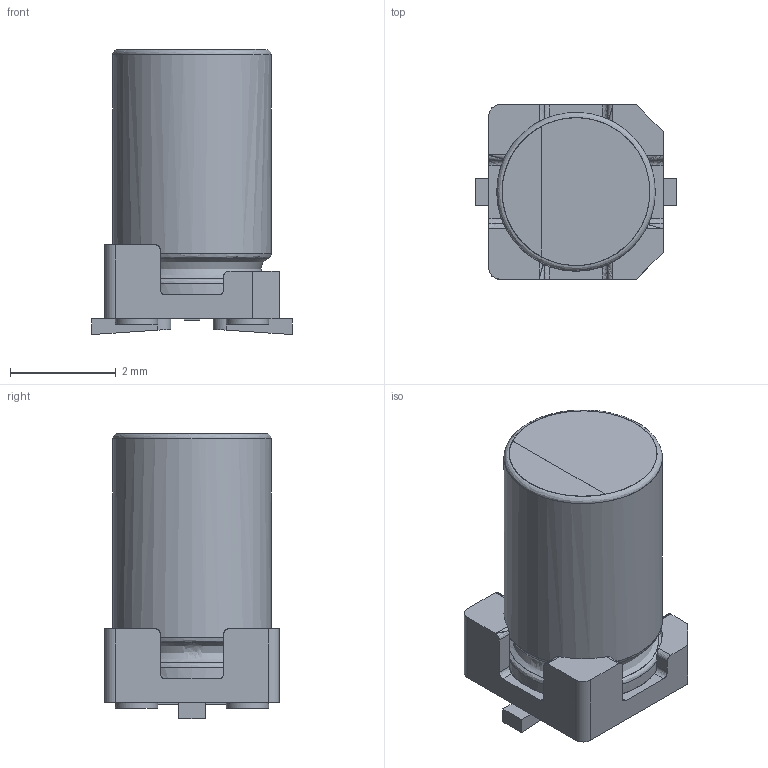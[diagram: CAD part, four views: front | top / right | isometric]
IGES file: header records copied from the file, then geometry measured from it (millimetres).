
Start section: JAMA-IS VERSION  1.0
Bounding box: 3.8 x 3.3 x 5.4 mm (x, y, z)
Surface area: 104.1 mm2 (no closed solid volume)
Topology: 0 solids, 0 shells, 81 faces, 806 edges, 790 vertices
Faces by surface type: bspline 81
